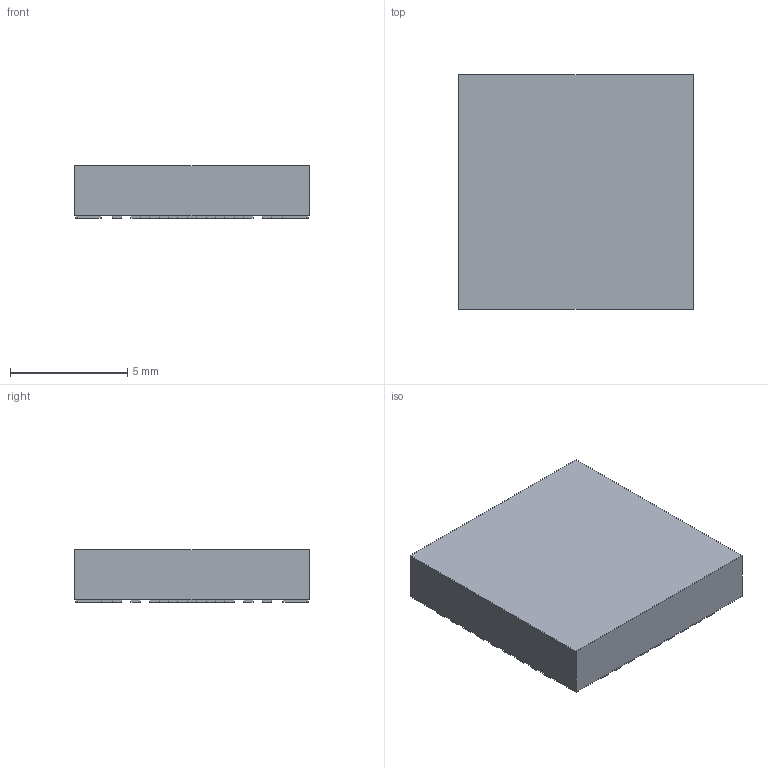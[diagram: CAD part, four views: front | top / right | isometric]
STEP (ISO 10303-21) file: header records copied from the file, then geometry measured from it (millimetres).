
FILE_DESCRIPTION(('FreeCAD Model'),'2;1');
FILE_NAME('/var/www/3D/0T/355984.1.2.stp','2020-04-08T14:56:45',( 'Author'),(''),'Open CASCADE STEP processor 6.9','FreeCAD','Unknown' );
FILE_SCHEMA(('AUTOMOTIVE_DESIGN { 1 0 10303 214 1 1 1 1 }'));
Length unit declared in the file: millimetre
Products named in the file (3): ASSEMBLY; Body; Pins
Assembly tree (2 placements, depth 2):
  ASSEMBLY
    Body
    Pins
Bounding box: 10 x 10 x 2.23 mm (x, y, z)
Volume: 215.2 mm3; surface area: 339.8 mm2
Topology: 44 solids, 44 shells, 264 faces, 528 edges, 352 vertices
Faces by surface type: plane 264
Entity records: 13916 total; most frequent: CARTESIAN_POINT 2203, DIRECTION 2118, LINE 1584, VECTOR 1584, ORIENTED_EDGE 1056, PCURVE 1056, DEFINITIONAL_REPRESENTATION 1056, EDGE_CURVE 528
